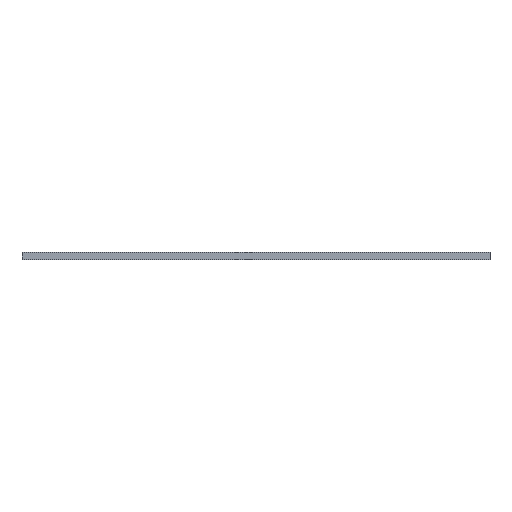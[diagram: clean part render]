
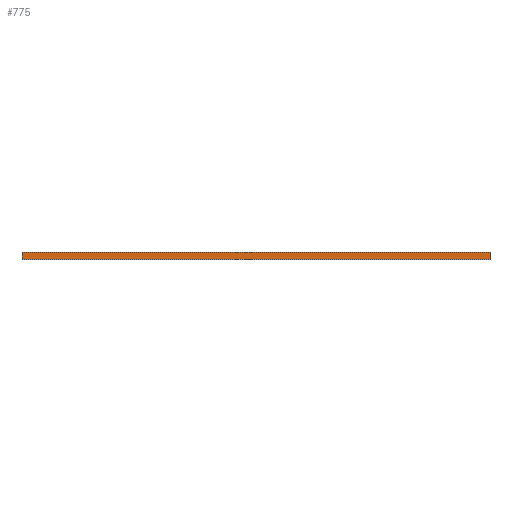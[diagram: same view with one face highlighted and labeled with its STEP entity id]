
A CAD part, front view. The second image highlights one B-rep face of the part: STEP entity #775.
In plain terms, the highlighted planar face has unit normal (0, -1, 0).
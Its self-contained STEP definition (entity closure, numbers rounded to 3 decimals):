
#775=ADVANCED_FACE('',(#1404),#1405,.T.);
#1404=FACE_OUTER_BOUND('',#2255,.T.);
#1405=PLANE('',#2256);
#2255=EDGE_LOOP('',(#3003,#3004,#3005,#3006));
#2256=AXIS2_PLACEMENT_3D('',#3007,#3008,#3009);
#3003=ORIENTED_EDGE('',*,*,#3995,.T.);
#3004=ORIENTED_EDGE('',*,*,#3996,.T.);
#3005=ORIENTED_EDGE('',*,*,#3997,.T.);
#3006=ORIENTED_EDGE('',*,*,#3998,.F.);
#3007=CARTESIAN_POINT('',(0.0,-17.0,0.0));
#3008=DIRECTION('',(0.0,-1.0,0.0));
#3009=DIRECTION('',(0.0,0.0,-1.0));
#3995=EDGE_CURVE('',#4668,#4669,#4670,.T.);
#3996=EDGE_CURVE('',#4669,#4671,#4672,.T.);
#3997=EDGE_CURVE('',#4671,#4673,#4674,.T.);
#3998=EDGE_CURVE('',#4668,#4673,#4675,.T.);
#4668=VERTEX_POINT('',#5284);
#4669=VERTEX_POINT('',#5285);
#4670=LINE('',#5286,#5287);
#4671=VERTEX_POINT('',#5288);
#4672=LINE('',#5289,#5290);
#4673=VERTEX_POINT('',#5291);
#4674=LINE('',#5292,#5293);
#4675=LINE('',#5294,#5295);
#5284=CARTESIAN_POINT('',(2050.0,-17.0,-1.0));
#5285=CARTESIAN_POINT('',(0.0,-17.0,-1.0));
#5286=CARTESIAN_POINT('',(-58.157,-17.0,-1.0));
#5287=VECTOR('',#5853,1.0);
#5288=CARTESIAN_POINT('',(0.0,-17.0,-31.5));
#5289=CARTESIAN_POINT('',(0.0,-17.0,0.0));
#5290=VECTOR('',#5854,1.0);
#5291=CARTESIAN_POINT('',(2050.0,-17.0,-31.5));
#5292=CARTESIAN_POINT('',(-58.157,-17.0,-31.5));
#5293=VECTOR('',#5855,1.0);
#5294=CARTESIAN_POINT('',(2050.0,-17.0,-8.25));
#5295=VECTOR('',#5856,1.0);
#5853=DIRECTION('',(-1.0,0.0,0.0));
#5854=DIRECTION('',(0.0,0.0,-1.0));
#5855=DIRECTION('',(1.0,0.0,0.0));
#5856=DIRECTION('',(0.0,0.0,-1.0));
